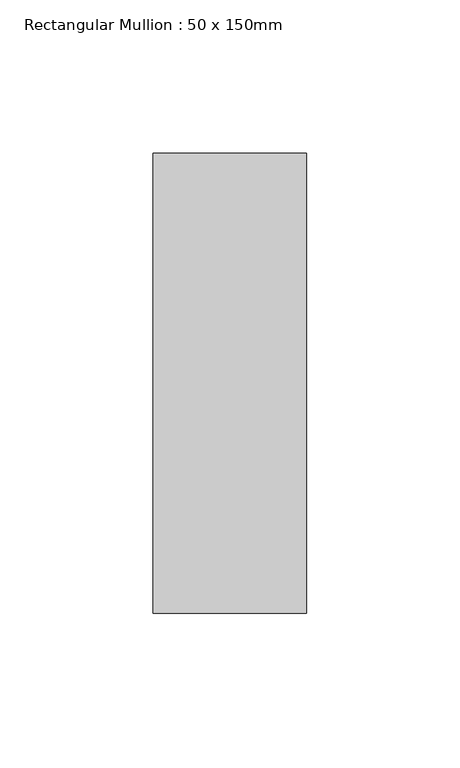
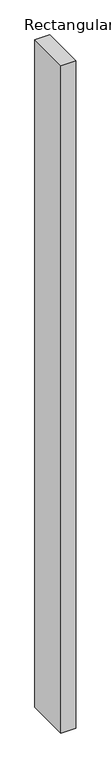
"""IFC4 building model written with IfcOpenShell, lengths in millimetres: member geometry, Rectangular Mullion : 50 x 150mm."""

import ifcopenshell
import ifcopenshell.guid

model = None  # the IFC model being written
_history = None  # IfcOwnerHistory: only IFC2X3 demands one
_inside = {}  # id of a spatial element -> (the spatial element, [elements in it])
_under = {}  # id of a project, library or spatial element -> (it, [spatial elements below it])
_declared = {}  # id of a project -> (the project, [libraries it declares])
_typed = {}  # id of a type object -> (the type object, [elements of that type])
_made_of = {}  # id of a material, layer set ... -> (it, [elements and type objects made of it])


def new_model(schema):
    """Start an empty IFC model of exactly this schema.

    Asked for "IFC4X3", IfcOpenShell would pick the latest addendum, in which some entities
    have other attributes; the version numbers below select the first issue.
    IFC2X3 requires an IfcOwnerHistory on every rooted entity: one is made here for all.
    """
    global model, _history
    if schema == "IFC4X3":
        model = ifcopenshell.file(schema_version=(4, 3, 0, 0))
    else:
        model = ifcopenshell.file(schema=schema)
    _inside.clear()
    _under.clear()
    _declared.clear()
    _typed.clear()
    _made_of.clear()
    _history = None
    if model.schema == "IFC2X3":
        org = make("IfcOrganization", Name="unknown")
        user = make(
            "IfcPersonAndOrganization",
            ThePerson=make("IfcPerson", FamilyName="unknown"),
            TheOrganization=org,
        )
        app = make(
            "IfcApplication",
            ApplicationDeveloper=org,
            Version="unknown",
            ApplicationFullName="unknown",
            ApplicationIdentifier="unknown",
        )
        _history = make(
            "IfcOwnerHistory",
            OwningUser=user,
            OwningApplication=app,
            ChangeAction="ADDED",
            CreationDate=0,
        )
    return model


def make(cls, **values):
    """One entity of the class cls with the attributes given. An attribute that is None is left unset."""
    return model.create_entity(
        cls, **{name: value for name, value in values.items() if value is not None}
    )


def rooted(cls, **values):
    """An entity with a GlobalId (a new one), such as an element, a storey or a relation."""
    return make(cls, GlobalId=ifcopenshell.guid.new(), OwnerHistory=_history, **values)


def si_unit(unit_type, name, prefix=None):
    """IfcSIUnit, for example si_unit("LENGTHUNIT", "METRE", prefix="MILLI")."""
    return make("IfcSIUnit", UnitType=unit_type, Prefix=prefix, Name=name)


def assignment(units):
    """IfcUnitAssignment: the units of a project."""
    return None if units is None else make("IfcUnitAssignment", Units=units)


def point(xyz):
    """IfcCartesianPoint."""
    return None if xyz is None else make("IfcCartesianPoint", Coordinates=xyz)


def direction(xyz):
    """IfcDirection."""
    return None if xyz is None else make("IfcDirection", DirectionRatios=xyz)


def frame(location, z_axis=None, x_axis=None):
    """IfcAxis2Placement3D, a coordinate frame: its origin and axes. An axis left out is left unset."""
    return make(
        "IfcAxis2Placement3D",
        Location=point(location),
        Axis=direction(z_axis),
        RefDirection=direction(x_axis),
    )


def origin():
    """The frame at (0, 0, 0) with its axes left unset."""
    return frame((0.0, 0.0, 0.0))


def place(relative_to, where):
    """IfcLocalPlacement: puts the frame where relative to a parent placement (None: the world)."""
    return make(
        "IfcLocalPlacement", PlacementRelTo=relative_to, RelativePlacement=where
    )


def context(
    kind, dimensions, precision=None, world=None, true_north=None, identifier=None
):
    """IfcGeometricRepresentationContext, for example the 3D "Model" context."""
    return make(
        "IfcGeometricRepresentationContext",
        ContextIdentifier=identifier,
        ContextType=kind,
        CoordinateSpaceDimension=dimensions,
        Precision=precision,
        WorldCoordinateSystem=world,
        TrueNorth=true_north,
    )


def project(units=None, contexts=None):
    """IfcProject with its units and contexts."""
    return rooted(
        "IfcProject",
        Name="project",
        RepresentationContexts=contexts,
        UnitsInContext=assignment(units),
    )


def spatial(cls, under=None, at=None, **own):
    """A site, building, storey or space (cls), placed at a placement, below another one or the project."""
    s = rooted(cls, ObjectPlacement=at, **own)
    if under is not None:
        _under.setdefault(under.id(), (under, []))[1].append(s)
    return s


def polyline(points):
    """IfcPolyline through the points."""
    return make("IfcPolyline", Points=[point(p) for p in points])


def outline(outer, holes=None, kind="AREA"):
    """IfcArbitraryClosedProfileDef: a profile drawn as a closed curve; with holes, ...WithVoids."""
    if holes is None:
        return make("IfcArbitraryClosedProfileDef", ProfileType=kind, OuterCurve=outer)
    return make(
        "IfcArbitraryProfileDefWithVoids",
        ProfileType=kind,
        OuterCurve=outer,
        InnerCurves=holes,
    )


def extrude(swept, where, along, depth):
    """IfcExtrudedAreaSolid: the profile swept, set in the frame where, extruded along a direction by depth."""
    return make(
        "IfcExtrudedAreaSolid",
        SweptArea=swept,
        Position=where,
        ExtrudedDirection=direction(along),
        Depth=depth,
    )


def shape(context_of_items, identifier, shape_type, items):
    """IfcShapeRepresentation: the items that make up one representation, for example the "Body"."""
    return make(
        "IfcShapeRepresentation",
        ContextOfItems=context_of_items,
        RepresentationIdentifier=identifier,
        RepresentationType=shape_type,
        Items=items,
    )


def source(mapping_origin, context_of_items, identifier, shape_type, items):
    """IfcRepresentationMap: a shape defined once, which mapped items show again and again."""
    return make(
        "IfcRepresentationMap",
        MappingOrigin=mapping_origin,
        MappedRepresentation=shape(context_of_items, identifier, shape_type, items),
    )


def transform(
    local_origin,
    x_axis=None,
    y_axis=None,
    z_axis=None,
    scale=None,
    scale2=None,
    scale3=None,
    uniform=True,
):
    """IfcCartesianTransformationOperator3D, or its non-uniform kind. x_axis, y_axis, z_axis: its Axis1, 2, 3."""
    if uniform:
        return make(
            "IfcCartesianTransformationOperator3D",
            Axis1=direction(x_axis),
            Axis2=direction(y_axis),
            LocalOrigin=point(local_origin),
            Scale=scale,
            Axis3=direction(z_axis),
        )
    return make(
        "IfcCartesianTransformationOperator3DnonUniform",
        Axis1=direction(x_axis),
        Axis2=direction(y_axis),
        LocalOrigin=point(local_origin),
        Scale=scale,
        Axis3=direction(z_axis),
        Scale2=scale2,
        Scale3=scale3,
    )


def mapped(mapping_source, mapping_target):
    """IfcMappedItem: shows the shape of a source again, moved by a transform."""
    return make(
        "IfcMappedItem", MappingSource=mapping_source, MappingTarget=mapping_target
    )


def made_of(thing, what):
    """Note that an element or type object is made of a material, layer set ...; save() writes the relation."""
    if what is not None:
        _made_of.setdefault(what.id(), (what, []))[1].append(thing)
    return thing


def element(
    cls,
    number,
    at=None,
    inside=None,
    cuts=None,
    type_object=None,
    material=None,
    context=None,
    identifier="Body",
    shape_type=None,
    held_by="IfcProductDefinitionShape",
    body=None,
    shapes=None,
    **own,
):
    """One element of the class cls, such as IfcWall. Its Tag is "e" and its number.

    at: its placement. inside: the storey or other place that contains it. cuts: it is an
    opening in that element (IfcRelVoidsElement). A single representation is given by context,
    identifier, shape_type and body (its items); several are given by shapes. held_by: the class
    of the entity that holds the representations. save() writes the other relations.
    """
    e = rooted(cls, Tag="e%d" % number, ObjectPlacement=at, **own)
    if body is not None:
        shapes = [shape(context, identifier, shape_type, body)]
    if shapes is not None:
        e.Representation = make(held_by, Representations=shapes)
    if inside is not None:
        _inside.setdefault(inside.id(), (inside, []))[1].append(e)
    if cuts is not None:
        rooted(
            "IfcRelVoidsElement", RelatingBuildingElement=cuts, RelatedOpeningElement=e
        )
    if type_object is not None:
        _typed.setdefault(type_object.id(), (type_object, []))[1].append(e)
    return made_of(e, material)


def aggregate(whole, parts):
    """IfcRelAggregates: a whole, such as a stair, and the parts it consists of."""
    return rooted("IfcRelAggregates", RelatingObject=whole, RelatedObjects=parts)


def save(model, path):
    """Write the relations noted so far, then the file.

    IfcRelAggregates (storeys below a building ...), IfcRelContainedInSpatialStructure (elements
    in a storey), IfcRelDefinesByType, IfcRelAssociatesMaterial and IfcRelDeclares: one each for
    every whole, place, type object, material and project.
    """
    for whole, parts in _under.values():
        aggregate(whole, parts)
    for where, things in _inside.values():
        rooted(
            "IfcRelContainedInSpatialStructure",
            RelatedElements=things,
            RelatingStructure=where,
        )
    for kind, things in _typed.values():
        rooted("IfcRelDefinesByType", RelatedObjects=things, RelatingType=kind)
    for what, things in _made_of.values():
        rooted("IfcRelAssociatesMaterial", RelatedObjects=things, RelatingMaterial=what)
    for by, libraries in _declared.values():
        rooted("IfcRelDeclares", RelatingContext=by, RelatedDefinitions=libraries)
    model.write(path)


def rectangular_mullion_50_x_150mm_518b68e2(model_context):
    return source(origin(), model_context, "Body", "SweptSolid", [
        extrude(outline(polyline([(25.0, 75.0), (25.0, -75.0), (-25.0, -75.0), (-25.0, 75.0), (25.0, 75.0)])), frame((0.0, 0.0, -2350.0), z_axis=(0.0, 0.0, 1.0), x_axis=(1.0, 0.0, 0.0)), (0.0, 0.0, 1.0), 2350.0),
    ])


if __name__ == "__main__":
    model = new_model("IFC4")
    model_context = context("Model", 3, world=origin())
    ifc_project = project(units=[si_unit("LENGTHUNIT", "METRE", prefix="MILLI")], contexts=[model_context])
    site = spatial("IfcSite", under=ifc_project)
    building = spatial("IfcBuilding", under=site)
    placement = place(None, origin())
    rectangular_mullion_50_x_150mm_shape = rectangular_mullion_50_x_150mm_518b68e2(model_context)
    element("IfcMember", 1, ObjectType="Rectangular Mullion : 50 x 150mm", at=placement, inside=building, context=model_context, shape_type="MappedRepresentation", body=[
        mapped(rectangular_mullion_50_x_150mm_shape, transform((0.0, 0.0, 0.0), x_axis=(1.0, 0.0, 0.0), y_axis=(0.0, 1.0, 0.0), z_axis=(0.0, 0.0, 1.0))),
    ])
    save(model, "model.ifc")
